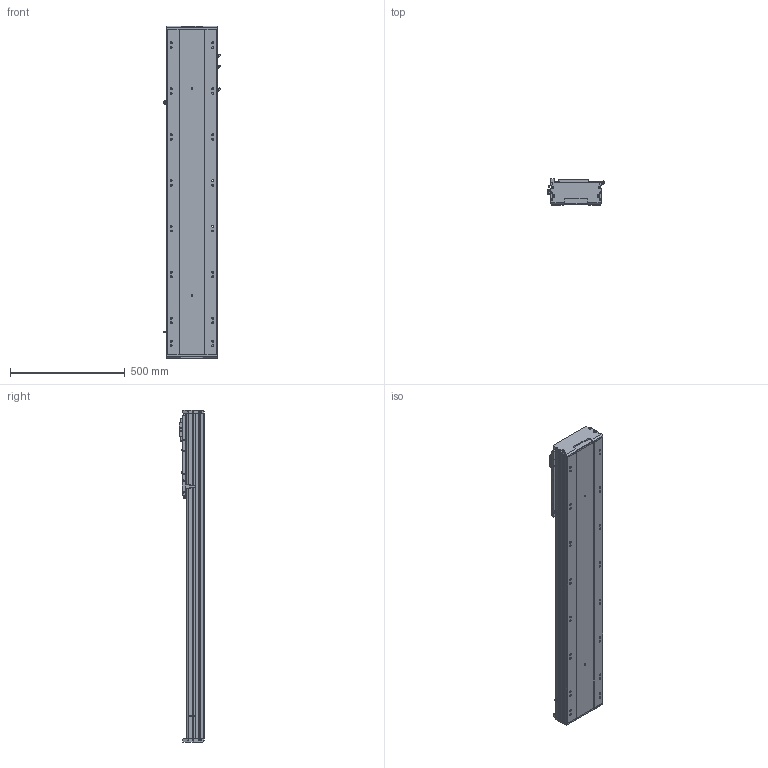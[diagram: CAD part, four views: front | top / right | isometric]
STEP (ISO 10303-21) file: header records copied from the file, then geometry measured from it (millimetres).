
FILE_DESCRIPTION (( 'STEP AP203' ), '1' );
FILE_NAME ('BEH22-A-M2-1000-L1-¦Õ22-PCD100-M6-C3.STEP', '2022-06-21T05:36:18', ( 'CXY' ), ( 'BT' ), 'SwSTEP 2.0', 'SolidWorks 2016', '' );
FILE_SCHEMA (( 'CONFIG_CONTROL_DESIGN' ));
Products named in the file (12): BEH22-A-M2-1000-L1-耳22-PCD100-M6-C3; BEH22-B-01-XX-2; BEH22-04-01_L; FS-01-10（10毫米）; BEH22-07-PCD100-80-M6; FS-25-6.66-M2-H22K6; PM-T65; FS-02-BTH22; 萇儂階踡輸; _G-M6; BTH22-07-DZ; BEH22-04-F
Assembly tree (18 placements, depth 3):
  BEH22-A-M2-1000-L1-耳22-PCD100-M6-C3
    BEH22-B-01-XX-2
    BTH22-07-DZ  x2
    PM-T65  x2
    BEH22-04-01_L
      BEH22-04-F
      萇儂階踡輸
      _G-M6  x3
      FS-02-BTH22
      FS-01-10（10毫米）  x4
      BEH22-07-PCD100-80-M6
      FS-25-6.66-M2-H22K6
Bounding box: 247.7 x 111 x 1448 mm (x, y, z)
Volume: 16170261.4 mm3; surface area: 1682600 mm2
Topology: 21 solids, 21 shells, 1896 faces, 5284 edges, 3402 vertices
Faces by surface type: cylinder 848, plane 756, cone 233, bspline 37, torus 22
Entity records: 445564 total; most frequent: CARTESIAN_POINT 405951, ORIENTED_EDGE 8388, DIRECTION 7582, EDGE_CURVE 4194, AXIS2_PLACEMENT_3D 2780, VERTEX_POINT 2762, VECTOR 2022, LINE 2022
